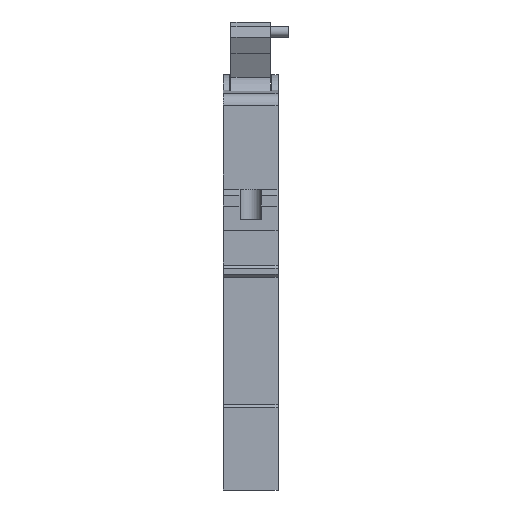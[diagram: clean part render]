
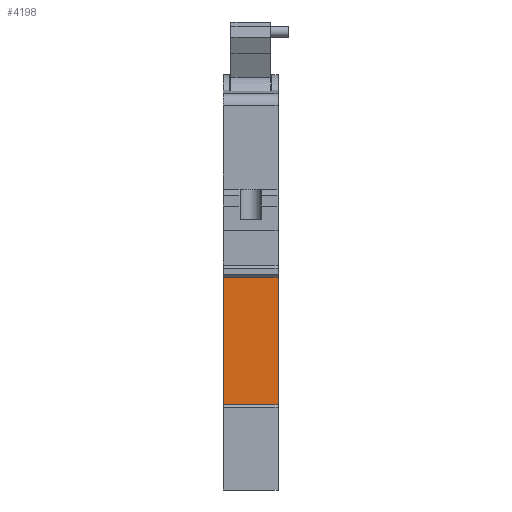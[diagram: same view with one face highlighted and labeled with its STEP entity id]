
A CAD part, front view. The second image highlights one B-rep face of the part: STEP entity #4198.
In plain terms, the highlighted planar face has unit normal (0, -1, 0).
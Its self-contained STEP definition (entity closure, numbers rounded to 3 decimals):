
#341=PLANE('',#4557);
#583=FACE_OUTER_BOUND('',#880,.T.);
#880=EDGE_LOOP('',(#3758,#3759,#3760,#3761));
#1149=LINE('',#7471,#1512);
#1225=LINE('',#7648,#1588);
#1226=LINE('',#7651,#1589);
#1227=LINE('',#7652,#1590);
#1512=VECTOR('',#5372,10.);
#1588=VECTOR('',#5554,10.);
#1589=VECTOR('',#5557,10.);
#1590=VECTOR('',#5558,10.);
#2092=VERTEX_POINT('',#7468);
#2093=VERTEX_POINT('',#7470);
#2141=VERTEX_POINT('',#7646);
#2142=VERTEX_POINT('',#7650);
#2614=EDGE_CURVE('',#2093,#2092,#1149,.T.);
#2703=EDGE_CURVE('',#2092,#2141,#1225,.T.);
#2704=EDGE_CURVE('',#2142,#2141,#1226,.T.);
#2705=EDGE_CURVE('',#2093,#2142,#1227,.T.);
#3758=ORIENTED_EDGE('',*,*,#2614,.T.);
#3759=ORIENTED_EDGE('',*,*,#2703,.T.);
#3760=ORIENTED_EDGE('',*,*,#2704,.F.);
#3761=ORIENTED_EDGE('',*,*,#2705,.F.);
#4198=ADVANCED_FACE('',(#583),#341,.T.);
#4557=AXIS2_PLACEMENT_3D('',#7649,#5555,#5556);
#5372=DIRECTION('',(0.,0.,1.));
#5554=DIRECTION('',(-1.,0.,0.));
#5555=DIRECTION('center_axis',(0.,-1.,0.));
#5556=DIRECTION('ref_axis',(0.,0.,
1.));
#5557=DIRECTION('',(0.,0.,1.));
#5558=DIRECTION('',(-1.,0.,0.));
#7468=CARTESIAN_POINT('',(11.997,426.369,774.091));
#7470=CARTESIAN_POINT('',(11.997,426.369,753.091));
#7471=CARTESIAN_POINT('',(11.997,426.369,753.091));
#7646=CARTESIAN_POINT('',(2.997,426.369,774.091));
#7648=CARTESIAN_POINT('',(11.997,426.369,774.091));
#7649=CARTESIAN_POINT('Origin',(11.997,426.369,753.091));
#7650=CARTESIAN_POINT('',(2.997,426.369,753.091));
#7651=CARTESIAN_POINT('',(2.997,426.369,753.091));
#7652=CARTESIAN_POINT('',(11.997,426.369,753.091));
